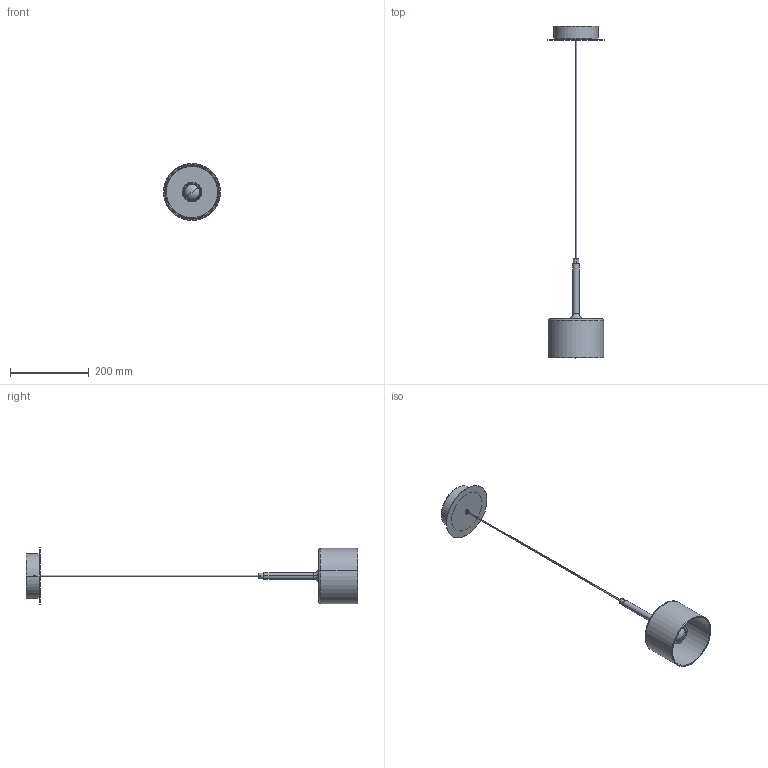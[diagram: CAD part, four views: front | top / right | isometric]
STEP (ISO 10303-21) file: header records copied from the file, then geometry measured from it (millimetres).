
FILE_DESCRIPTION (( 'STEP AP203' ), '1' );
FILE_NAME ('SPSPILG01XXXXXX-PER 3D.STEP', '2025-06-25T13:56:21', ( '' ), ( '' ), 'SwSTEP 2.0', 'SolidWorks 2024', '' );
FILE_SCHEMA (( 'CONFIG_CONTROL_DESIGN' ));
Length unit declared in the file: millimetre
Products named in the file (12): WSCM2A0119-0700-00; WSCM2A0144-0700-01; PENDENTE SPILLRAY EVO G-00; VSPILLRAYGCS; 2.5C.AXO07.LP01.19; WSCM2F0036-0100-00; WSM2G1522-FR------; WSASS-000000060-00; SPSPILG01XXXXXX-PER 3D; SPILLRAY EVO-ASSIEME DISSIPATORE CON SORGENTE LED-001; WSCM2C0178-0100-00; CAVO NL2CN_CAVO NL2CN
Assembly tree (11 placements, depth 4):
  SPSPILG01XXXXXX-PER 3D
    WSASS-000000060-00
      WSCM2C0178-0100-00
      WSCM2F0036-0100-00
      WSM2G1522-FR------
    PENDENTE SPILLRAY EVO G-00
      WSCM2A0119-0700-00
      SPILLRAY EVO-ASSIEME DISSIPATORE CON SORGENTE LED-001
        2.5C.AXO07.LP01.19
        WSCM2A0144-0700-01
      CAVO NL2CN_CAVO NL2CN
      VSPILLRAYGCS
Bounding box: 145 x 843.49 x 145 mm (x, y, z)
Volume: 251614.2 mm3; surface area: 227314.8 mm2
Topology: 11 solids, 11 shells, 202 faces, 441 edges, 267 vertices
Faces by surface type: cylinder 86, plane 38, torus 38, cone 30, bspline 6, sphere 4
Entity records: 8219 total; most frequent: CARTESIAN_POINT 2438, DIRECTION 1052, ORIENTED_EDGE 882, AXIS2_PLACEMENT_3D 456, EDGE_CURVE 441, VERTEX_POINT 267, CIRCLE 243, EDGE_LOOP 226
